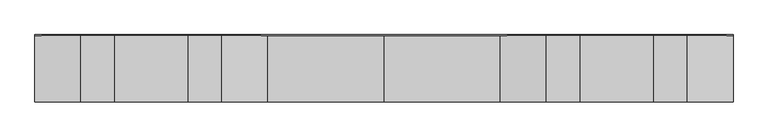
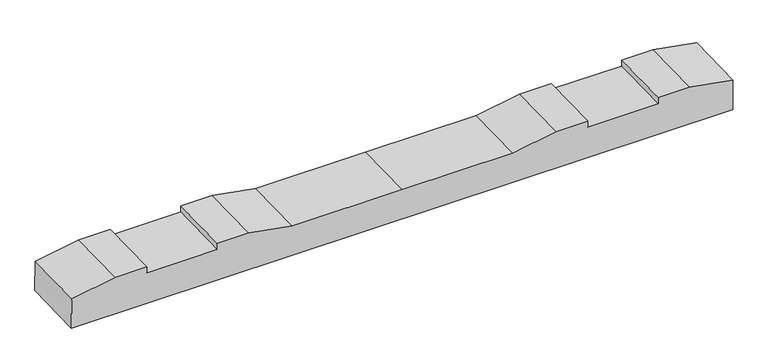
"""IFC4 building model written with IfcOpenShell, lengths in millimetres: proxy geometry, 轨枕-立面角度 : 轨枕-立面角度."""

from ifc_helpers import new_model, si_unit, frame, origin, place, context, project, spatial, polyline, outline, extrude, source, transform, mapped, element, save


def generic_models_b9d4fef1(model_context):
    return source(origin(), model_context, "Body", "SweptSolid", [
        extrude(outline(polyline([(0.0, 0.0), (2099.7669328, 0.0), (2099.7669328, -100.020689), (1961.8834664, -124.5), (1861.8834664, -124.5), (1861.8834664, -104.5), (1637.8834664, -104.5), (1637.8834664, -124.5), (1537.8834664, -124.5), (1399.8834664, -100.0), (1049.8834664, -100.0), (699.8834664, -100.0), (561.8834664, -124.5), (461.8834664, -124.5), (461.8834664, -104.5), (237.8834664, -104.5), (237.8834664, -124.5), (137.8834664, -124.5), (0.0, -100.020689), (0.0, 0.0)])), frame((-1049.8834664, -97.4107254, -106.9177281), z_axis=(0.0, 0.9997000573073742, 0.024490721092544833), x_axis=(1.0, 0.0, 0.0)), (0.0, 0.0, 1.0), 200.0),
    ])


if __name__ == "__main__":
    model = new_model("IFC4")
    model_context = context("Model", 3, world=origin())
    ifc_project = project(units=[si_unit("LENGTHUNIT", "METRE", prefix="MILLI")], contexts=[model_context])
    site = spatial("IfcSite", under=ifc_project)
    building = spatial("IfcBuilding", under=site)
    placement = place(None, origin())
    generic_models_shape = generic_models_b9d4fef1(model_context)
    element("IfcBuildingElementProxy", 1, Name="轨枕-立面角度 : 轨枕-立面角度", ObjectType="轨枕-立面角度 : 轨枕-立面角度", at=placement, inside=building, context=model_context, shape_type="MappedRepresentation", body=[
        mapped(generic_models_shape, transform((0.0, 0.0, 0.0), x_axis=(1.0, 0.0, 0.0), y_axis=(0.0, 1.0, 0.0), z_axis=(0.0, 0.0, 1.0))),
    ])
    save(model, "model.ifc")
